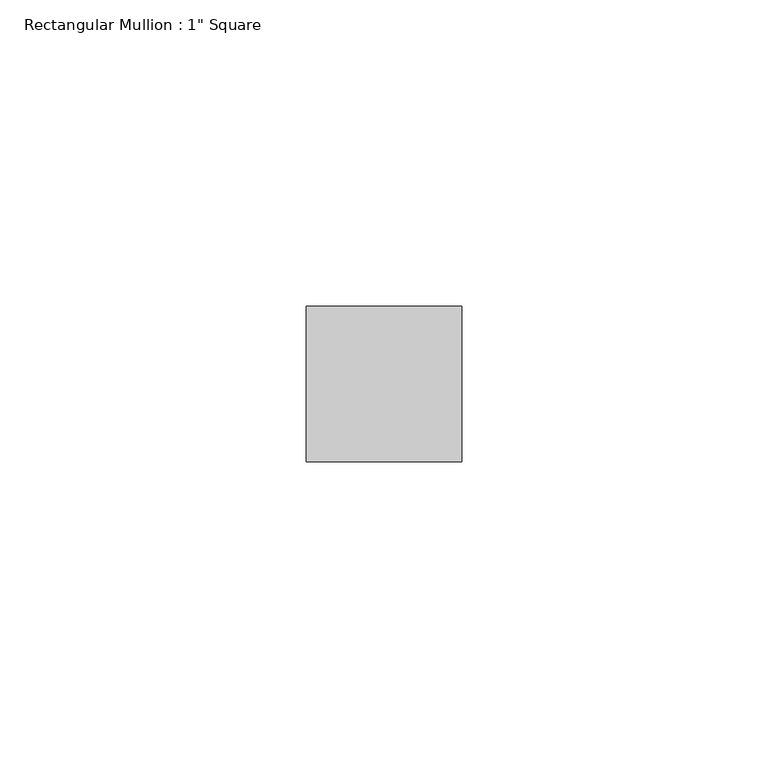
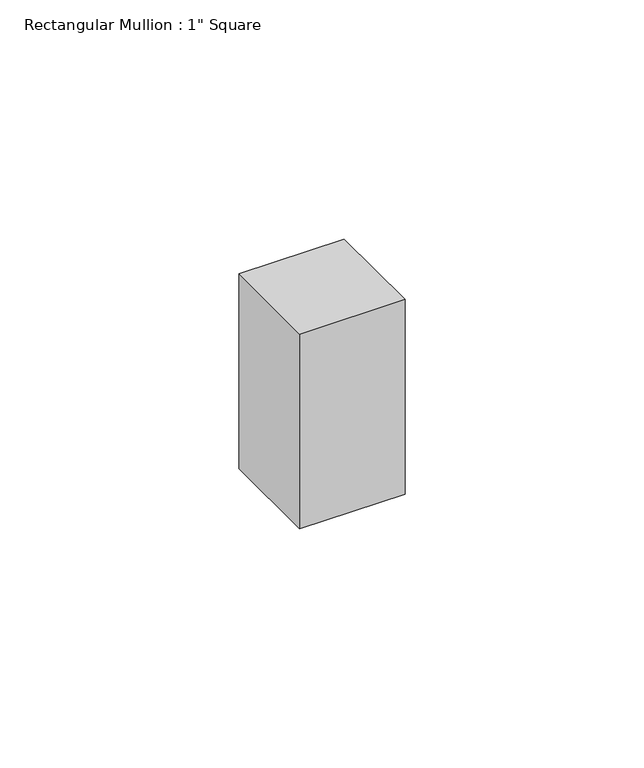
"""IFC4 building model written with IfcOpenShell, lengths in millimetres: member geometry."""

from ifc_helpers import new_model, si_unit, frame, origin, place, context, project, spatial, polyline, outline, extrude, source, transform, mapped, element, save


def member_68ba998a(model_context):
    return source(origin(), model_context, "Body", "SweptSolid", [
        extrude(outline(polyline([(12.7, 12.7), (12.7, -12.7), (-12.7, -12.7), (-12.7, 12.7), (12.7, 12.7)])), frame((0.0, 0.0, -49.6439856), z_axis=(0.0, 0.0, 1.0), x_axis=(1.0, 0.0, 0.0)), (0.0, 0.0, 1.0), 49.6439856),
    ])


if __name__ == "__main__":
    model = new_model("IFC4")
    model_context = context("Model", 3, world=origin())
    ifc_project = project(units=[si_unit("LENGTHUNIT", "METRE", prefix="MILLI")], contexts=[model_context])
    site = spatial("IfcSite", under=ifc_project)
    building = spatial("IfcBuilding", under=site)
    placement = place(None, origin())
    member_shape = member_68ba998a(model_context)
    element("IfcMember", 1, ObjectType="Rectangular Mullion : 1\" Square", at=placement, inside=building, context=model_context, shape_type="MappedRepresentation", body=[
        mapped(member_shape, transform((0.0, 0.0, 0.0), x_axis=(1.0, 0.0, 0.0), y_axis=(0.0, 1.0, 0.0), z_axis=(0.0, 0.0, 1.0))),
    ])
    save(model, "model.ifc")
